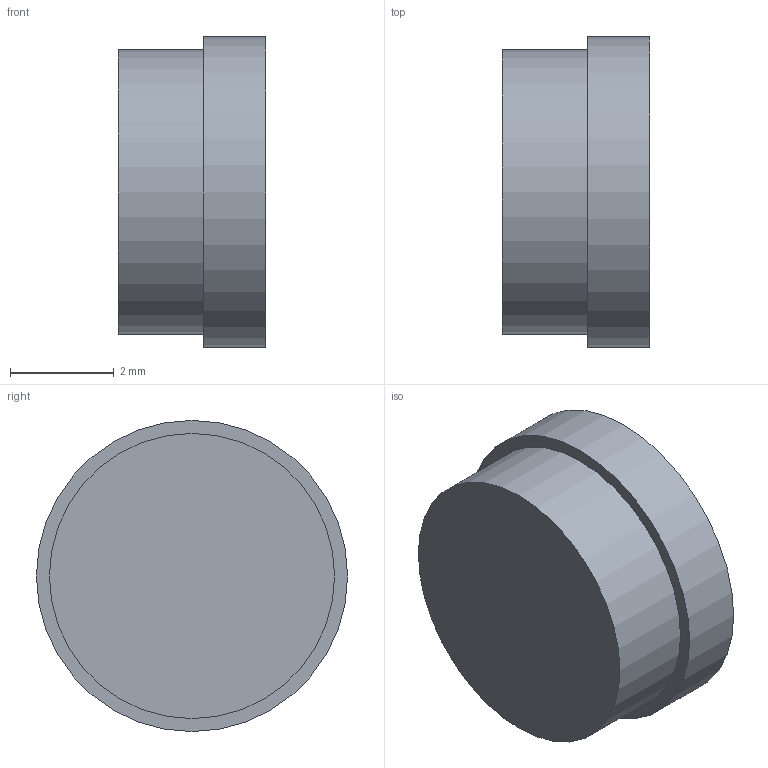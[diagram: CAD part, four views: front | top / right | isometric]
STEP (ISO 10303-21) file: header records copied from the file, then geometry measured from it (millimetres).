
FILE_DESCRIPTION(('Open CASCADE Model'),'2;1');
FILE_NAME('red_sos_button_plunger','2026-10-06T17:21:02',('Author'),( 'Open CASCADE'),'Open CASCADE STEP processor 7.9','build123d', 'Unknown');
FILE_SCHEMA(('AUTOMOTIVE_DESIGN { 1 0 10303 214 1 1 1 1 }'));
Length unit declared in the file: millimetre
Products named in the file (2): red_sos_button_plunger
Assembly tree (1 placements, depth 2):
  red_sos_button_plunger
    red_sos_button_plunger
Bounding box: 2.85 x 6 x 6 mm (x, y, z)
Volume: 73.1 mm3; surface area: 107.7 mm2
Topology: 1 solids, 1 shells, 5 faces, 6 edges, 4 vertices
Faces by surface type: plane 3, cylinder 2
Full cylindrical faces by diameter (mm): 5.5 x1, 6 x1
Entity records: 234 total; most frequent: DIRECTION 36, CARTESIAN_POINT 29, ORIENTED_EDGE 12, PCURVE 12, DEFINITIONAL_REPRESENTATION 12, AXIS2_PLACEMENT_3D 11, LINE 10, VECTOR 10
